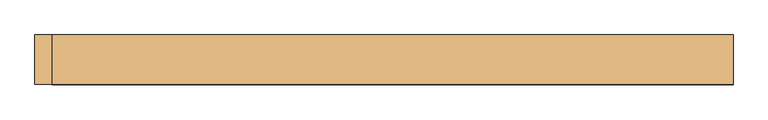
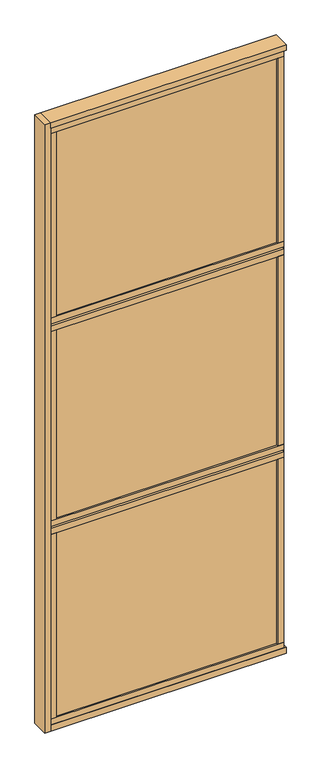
"""IFC4 building model written with IfcOpenShell, lengths in millimetres: door geometry, Mobiliário_Mobiliário de Escritório_Painel de Vidro Duplo - AV3T (Inicial e Final)_Marelli : AV3T - Temperado."""

from ifc_helpers import new_model, si_unit, frame, origin, origin_with_axes, place, context, project, spatial, polyline, outline, extrude, source, transform, mapped, element, save


def door_c7f791f1(model_context):
    return source(origin(), model_context, "Body", "SweptSolid", [
        extrude(outline(polyline([(600.0, 42.5), (600.0, -42.5), (-570.0, -42.5), (-570.0, 42.5), (600.0, 42.5)])), frame((0.0, 0.0, 3170.0), z_axis=(0.0, 0.0, 1.0), x_axis=(1.0, 0.0, 0.0)), (0.0, 0.0, 1.0), 30.0),
        extrude(outline(polyline([(590.0, 39.5), (590.0, -39.5), (-570.0, -39.5), (-570.0, 39.5), (590.0, 39.5)])), frame((0.0, 0.0, 3140.0), z_axis=(0.0, 0.0, 1.0), x_axis=(1.0, 0.0, 0.0)), (0.0, 0.0, 1.0), 30.0),
        extrude(outline(polyline([(-600.0, -42.5), (-600.0, 42.5), (-570.0, 42.5), (-570.0, -42.5), (-600.0, -42.5)])), origin_with_axes(), (0.0, 0.0, 1.0), 3200.0),
        extrude(outline(polyline([(590.0, -21.5), (590.0, 21.5), (600.0, 21.5), (600.0, -21.5), (590.0, -21.5)])), frame((0.0, 0.0, 30.0), z_axis=(0.0, 0.0, 1.0), x_axis=(1.0, 0.0, 0.0)), (0.0, 0.0, 1.0), 3140.0),
        extrude(outline(polyline([(560.0, -25.5), (560.0, -31.5), (-540.0, -31.5), (-540.0, -25.5), (560.0, -25.5)])), frame((0.0, 0.0, 2168.3333333), z_axis=(0.0, 0.0, 1.0), x_axis=(1.0, 0.0, 0.0)), (0.0, 0.0, 1.0), 971.6666667),
        extrude(outline(polyline([(560.0, 31.5), (560.0, 25.5), (-540.0, 25.5), (-540.0, 31.5), (560.0, 31.5)])), frame((0.0, 0.0, 2168.3333333), z_axis=(0.0, 0.0, 1.0), x_axis=(1.0, 0.0, 0.0)), (0.0, 0.0, 1.0), 971.6666667),
        extrude(outline(polyline([(-540.0, 39.5), (-540.0, -39.5), (-570.0, -39.5), (-570.0, 39.5), (-540.0, 39.5)])), frame((0.0, 0.0, 2168.3333333), z_axis=(0.0, 0.0, 1.0), x_axis=(1.0, 0.0, 0.0)), (0.0, 0.0, 1.0), 971.6666667),
        extrude(outline(polyline([(560.0, 39.5), (590.0, 39.5), (590.0, -39.5), (560.0, -39.5), (560.0, 39.5)])), frame((0.0, 0.0, 2168.3333333), z_axis=(0.0, 0.0, 1.0), x_axis=(1.0, 0.0, 0.0)), (0.0, 0.0, 1.0), 971.6666667),
        extrude(outline(polyline([(-540.0, 39.5), (-540.0, -39.5), (-570.0, -39.5), (-570.0, 39.5), (-540.0, 39.5)])), frame((0.0, 0.0, 60.0), z_axis=(0.0, 0.0, 1.0), x_axis=(1.0, 0.0, 0.0)), (0.0, 0.0, 1.0), 971.6666667),
        extrude(outline(polyline([(560.0, 39.5), (590.0, 39.5), (590.0, -39.5), (560.0, -39.5), (560.0, 39.5)])), frame((0.0, 0.0, 60.0), z_axis=(0.0, 0.0, 1.0), x_axis=(1.0, 0.0, 0.0)), (0.0, 0.0, 1.0), 971.6666667),
        extrude(outline(polyline([(560.0, -25.5), (560.0, -31.5), (-540.0, -31.5), (-540.0, -25.5), (560.0, -25.5)])), frame((0.0, 0.0, 60.0), z_axis=(0.0, 0.0, 1.0), x_axis=(1.0, 0.0, 0.0)), (0.0, 0.0, 1.0), 971.6666667),
        extrude(outline(polyline([(560.0, 31.5), (560.0, 25.5), (-540.0, 25.5), (-540.0, 31.5), (560.0, 31.5)])), frame((0.0, 0.0, 60.0), z_axis=(0.0, 0.0, 1.0), x_axis=(1.0, 0.0, 0.0)), (0.0, 0.0, 1.0), 971.6666667),
        extrude(outline(polyline([(590.0, 39.5), (590.0, -39.5), (-570.0, -39.5), (-570.0, 39.5), (590.0, 39.5)])), frame((0.0, 0.0, 2138.3333333), z_axis=(0.0, 0.0, 1.0), x_axis=(1.0, 0.0, 0.0)), (0.0, 0.0, 1.0), 30.0),
        extrude(outline(polyline([(590.0, 21.5), (590.0, -21.5), (-570.0, -21.5), (-570.0, 21.5), (590.0, 21.5)])), frame((0.0, 0.0, 2128.3333333), z_axis=(0.0, 0.0, 1.0), x_axis=(1.0, 0.0, 0.0)), (0.0, 0.0, 1.0), 10.0),
        extrude(outline(polyline([(590.0, 39.5), (590.0, -39.5), (-570.0, -39.5), (-570.0, 39.5), (590.0, 39.5)])), frame((0.0, 0.0, 2098.3333333), z_axis=(0.0, 0.0, 1.0), x_axis=(1.0, 0.0, 0.0)), (0.0, 0.0, 1.0), 30.0),
        extrude(outline(polyline([(590.0, 21.5), (590.0, -21.5), (-570.0, -21.5), (-570.0, 21.5), (590.0, 21.5)])), frame((0.0, 0.0, 1061.6666667), z_axis=(0.0, 0.0, 1.0), x_axis=(1.0, 0.0, 0.0)), (0.0, 0.0, 1.0), 10.0),
        extrude(outline(polyline([(590.0, 39.5), (590.0, -39.5), (-570.0, -39.5), (-570.0, 39.5), (590.0, 39.5)])), frame((0.0, 0.0, 1071.6666667), z_axis=(0.0, 0.0, 1.0), x_axis=(1.0, 0.0, 0.0)), (0.0, 0.0, 1.0), 30.0),
        extrude(outline(polyline([(590.0, 39.5), (590.0, -39.5), (-570.0, -39.5), (-570.0, 39.5), (590.0, 39.5)])), frame((0.0, 0.0, 1031.6666667), z_axis=(0.0, 0.0, 1.0), x_axis=(1.0, 0.0, 0.0)), (0.0, 0.0, 1.0), 30.0),
        extrude(outline(polyline([(600.0, 42.5), (600.0, -42.5), (-570.0, -42.5), (-570.0, 42.5), (600.0, 42.5)])), origin_with_axes(), (0.0, 0.0, 1.0), 30.0),
        extrude(outline(polyline([(590.0, 39.5), (590.0, -39.5), (-570.0, -39.5), (-570.0, 39.5), (590.0, 39.5)])), frame((0.0, 0.0, 30.0), z_axis=(0.0, 0.0, 1.0), x_axis=(1.0, 0.0, 0.0)), (0.0, 0.0, 1.0), 30.0),
        extrude(outline(polyline([(560.0, -25.5), (560.0, -31.5), (-540.0, -31.5), (-540.0, -25.5), (560.0, -25.5)])), frame((0.0, 0.0, 1101.6666667), z_axis=(0.0, 0.0, 1.0), x_axis=(1.0, 0.0, 0.0)), (0.0, 0.0, 1.0), 996.6666667),
        extrude(outline(polyline([(560.0, 31.5), (560.0, 25.5), (-540.0, 25.5), (-540.0, 31.5), (560.0, 31.5)])), frame((0.0, 0.0, 1101.6666667), z_axis=(0.0, 0.0, 1.0), x_axis=(1.0, 0.0, 0.0)), (0.0, 0.0, 1.0), 996.6666667),
        extrude(outline(polyline([(-540.0, 39.5), (-540.0, -39.5), (-570.0, -39.5), (-570.0, 39.5), (-540.0, 39.5)])), frame((0.0, 0.0, 1101.6666667), z_axis=(0.0, 0.0, 1.0), x_axis=(1.0, 0.0, 0.0)), (0.0, 0.0, 1.0), 996.6666667),
        extrude(outline(polyline([(560.0, 39.5), (590.0, 39.5), (590.0, -39.5), (560.0, -39.5), (560.0, 39.5)])), frame((0.0, 0.0, 1101.6666667), z_axis=(0.0, 0.0, 1.0), x_axis=(1.0, 0.0, 0.0)), (0.0, 0.0, 1.0), 996.6666667),
    ])


if __name__ == "__main__":
    model = new_model("IFC4")
    model_context = context("Model", 3, world=origin())
    ifc_project = project(units=[si_unit("LENGTHUNIT", "METRE", prefix="MILLI")], contexts=[model_context])
    site = spatial("IfcSite", under=ifc_project)
    building = spatial("IfcBuilding", under=site)
    placement = place(None, origin())
    door_shape = door_c7f791f1(model_context)
    element("IfcDoor", 1, ObjectType="Mobiliário_Mobiliário de Escritório_Painel de Vidro Duplo - AV3T (Inicial e Final)_Marelli : AV3T - Temperado", at=placement, inside=building, context=model_context, shape_type="MappedRepresentation", body=[
        mapped(door_shape, transform((0.0, 0.0, 0.0), x_axis=(1.0, 0.0, 0.0), y_axis=(0.0, 1.0, 0.0), z_axis=(0.0, 0.0, 1.0))),
    ])
    save(model, "model.ifc")
